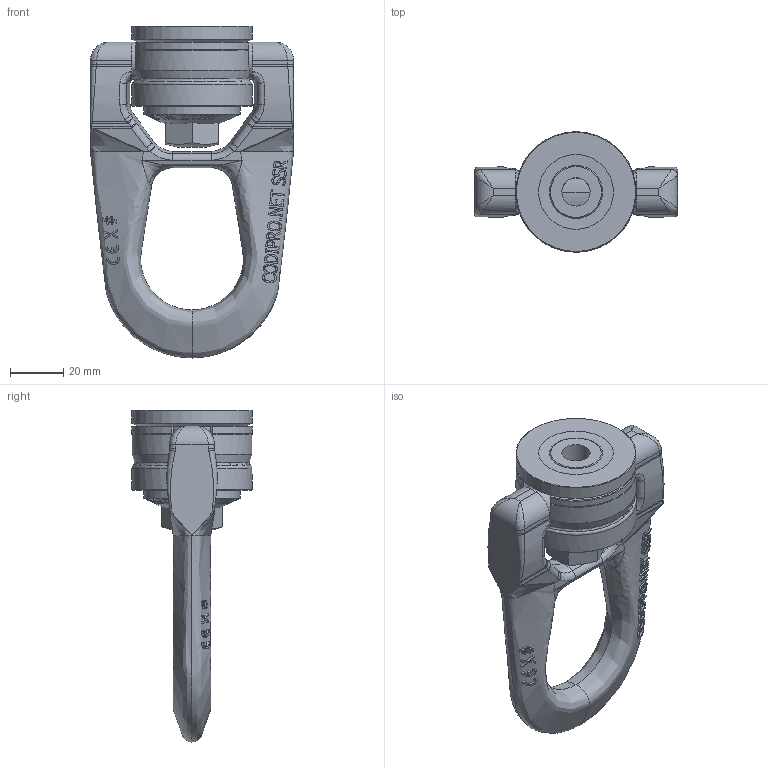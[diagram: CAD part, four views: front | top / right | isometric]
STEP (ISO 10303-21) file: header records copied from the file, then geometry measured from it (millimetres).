
FILE_DESCRIPTION(/* description */ (''),/* implementation_level */ '2;1');
FILE_NAME(/* name */ 'W:\CODIPRO\DOCUMENTS\Plans A NE PAS DIFFUSER !!!\Inventor\Standard Inventor\Produit Fini Inventor\SS_FE_DSR\Fichiers 3D\SS FE DSR U050.stp',/* time_stamp */ '2017-10-06T08:32:46+02:00',/* author */ ('rklenes'),/* organization */ (''),/* preprocessor_version */ 'ST-DEVELOPER v16.5',/* originating_system */ 'Autodesk Inventor 2017',/* authorisation */ '');
FILE_SCHEMA (('AUTOMOTIVE_DESIGN { 1 0 10303 214 3 1 1 }'));
Products named in the file (5): FE DSR U050; DRB_B2B; DRM_AF2B-1; FE_DRA_U050; DRE_D2M20A
Assembly tree (4 placements, depth 2):
  FE DSR U050
    DRB_B2B
    DRM_AF2B-1
    FE_DRA_U050
    DRE_D2M20A
Bounding box: 76 x 45 x 124.25 mm (x, y, z)
Volume: 104264.6 mm3; surface area: 36703.6 mm2
Topology: 4 solids, 4 shells, 904 faces, 2386 edges, 1533 vertices
Faces by surface type: plane 388, bspline 377, cylinder 81, cone 46, torus 11, sphere 1
Full cylindrical faces by diameter (mm): 10.592 x1, 14 x2, 19.85 x3, 20.05 x1, 22.6 x2, 23 x2, 32 x1, 36 x1, 45 x2
Entity records: 48527 total; most frequent: CARTESIAN_POINT 28836, ORIENTED_EDGE 4670, DIRECTION 3027, EDGE_CURVE 2335, VERTEX_POINT 1526, AXIS2_PLACEMENT_3D 1085, EDGE_LOOP 999, FACE_OUTER_BOUND 904
